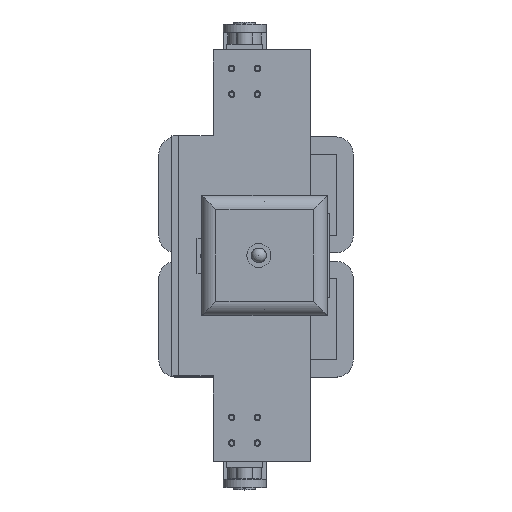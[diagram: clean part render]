
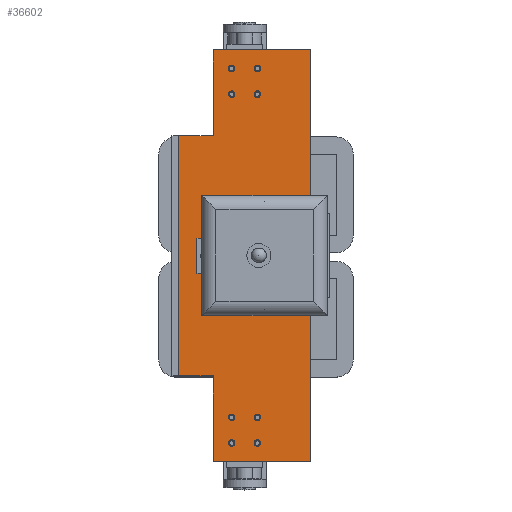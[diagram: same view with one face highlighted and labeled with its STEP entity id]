
A CAD part, top view. The second image highlights one B-rep face of the part: STEP entity #36602.
In plain terms, the highlighted planar face has unit normal (0, 0, 1).
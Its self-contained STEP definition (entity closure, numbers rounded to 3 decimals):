
#34209 = EDGE_CURVE('',#34210,#34210,#34212,.T.);
#34210 = VERTEX_POINT('',#34211);
#34211 = CARTESIAN_POINT('',(-13.6,0.,261.5));
#34212 = CIRCLE('',#34213,0.8);
#34213 = AXIS2_PLACEMENT_3D('',#34214,#34215,#34216);
#34214 = CARTESIAN_POINT('',(-14.4,0.,261.5));
#34215 = DIRECTION('',(0.,0.,1.));
#34216 = DIRECTION('',(1.,0.,0.));
#34235 = VERTEX_POINT('',#34236);
#34236 = CARTESIAN_POINT('',(11.2,-6.45,261.5));
#34244 = VERTEX_POINT('',#34245);
#34245 = CARTESIAN_POINT('',(-12.2,-6.45,261.5));
#34251 = EDGE_CURVE('',#34235,#34244,#34252,.T.);
#34252 = LINE('',#34253,#34254);
#34253 = CARTESIAN_POINT('',(-17.6,-6.45,261.5));
#34254 = VECTOR('',#34255,1.);
#34255 = DIRECTION('',(-1.,0.,0.));
#34268 = VERTEX_POINT('',#34269);
#34269 = CARTESIAN_POINT('',(11.2,6.45,261.5));
#34275 = EDGE_CURVE('',#34235,#34268,#34276,.T.);
#34276 = LINE('',#34277,#34278);
#34277 = CARTESIAN_POINT('',(11.2,-24.225,261.5));
#34278 = VECTOR('',#34279,1.);
#34279 = DIRECTION('',(0.,1.,0.));
#34292 = VERTEX_POINT('',#34293);
#34293 = CARTESIAN_POINT('',(-12.2,6.45,261.5));
#34299 = EDGE_CURVE('',#34244,#34292,#34300,.T.);
#34300 = LINE('',#34301,#34302);
#34301 = CARTESIAN_POINT('',(-12.2,-24.225,261.5));
#34302 = VECTOR('',#34303,1.);
#34303 = DIRECTION('',(0.,1.,0.));
#34316 = EDGE_CURVE('',#34268,#34292,#34317,.T.);
#34317 = LINE('',#34318,#34319);
#34318 = CARTESIAN_POINT('',(-17.6,6.45,261.5));
#34319 = VECTOR('',#34320,1.);
#34320 = DIRECTION('',(-1.,0.,0.));
#34330 = EDGE_CURVE('',#34331,#34331,#34333,.T.);
#34331 = VERTEX_POINT('',#34332);
#34332 = CARTESIAN_POINT('',(14.2,0.,261.5));
#34333 = CIRCLE('',#34334,0.8);
#34334 = AXIS2_PLACEMENT_3D('',#34335,#34336,#34337);
#34335 = CARTESIAN_POINT('',(13.4,0.,261.5));
#34336 = DIRECTION('',(0.,0.,1.));
#34337 = DIRECTION('',(1.,0.,0.));
#34399 = VERTEX_POINT('',#34400);
#34400 = CARTESIAN_POINT('',(-23.,-42.,261.5));
#34406 = EDGE_CURVE('',#34399,#34407,#34409,.T.);
#34407 = VERTEX_POINT('',#34408);
#34408 = CARTESIAN_POINT('',(-11.,-42.,261.5));
#34409 = LINE('',#34410,#34411);
#34410 = CARTESIAN_POINT('',(-23.,-42.,261.5));
#34411 = VECTOR('',#34412,1.);
#34412 = DIRECTION('',(1.,0.,0.));
#34719 = VERTEX_POINT('',#34720);
#34720 = CARTESIAN_POINT('',(-23.,42.,261.5));
#34726 = EDGE_CURVE('',#34719,#34727,#34729,.T.);
#34727 = VERTEX_POINT('',#34728);
#34728 = CARTESIAN_POINT('',(-11.,42.,261.5));
#34729 = LINE('',#34730,#34731);
#34730 = CARTESIAN_POINT('',(-23.,42.,261.5));
#34731 = VECTOR('',#34732,1.);
#34732 = DIRECTION('',(1.,0.,0.));
#34866 = VERTEX_POINT('',#34867);
#34867 = CARTESIAN_POINT('',(-11.,-72.,261.5));
#34875 = EDGE_CURVE('',#34866,#34407,#34876,.T.);
#34876 = LINE('',#34877,#34878);
#34877 = CARTESIAN_POINT('',(-11.,-72.,261.5));
#34878 = VECTOR('',#34879,1.);
#34879 = DIRECTION('',(0.,1.,0.));
#35338 = VERTEX_POINT('',#35339);
#35339 = CARTESIAN_POINT('',(-11.,72.,261.5));
#35345 = EDGE_CURVE('',#34727,#35338,#35346,.T.);
#35346 = LINE('',#35347,#35348);
#35347 = CARTESIAN_POINT('',(-11.,42.,261.5));
#35348 = VECTOR('',#35349,1.);
#35349 = DIRECTION('',(0.,1.,0.));
#35761 = EDGE_CURVE('',#34866,#35762,#35764,.T.);
#35762 = VERTEX_POINT('',#35763);
#35763 = CARTESIAN_POINT('',(23.,-72.,261.5));
#35764 = LINE('',#35765,#35766);
#35765 = CARTESIAN_POINT('',(-11.,-72.,261.5));
#35766 = VECTOR('',#35767,1.);
#35767 = DIRECTION('',(1.,0.,0.));
#35783 = EDGE_CURVE('',#35784,#35784,#35786,.T.);
#35784 = VERTEX_POINT('',#35785);
#35785 = CARTESIAN_POINT('',(-3.35,-65.5,261.5));
#35786 = CIRCLE('',#35787,1.15);
#35787 = AXIS2_PLACEMENT_3D('',#35788,#35789,#35790);
#35788 = CARTESIAN_POINT('',(-4.5,-65.5,261.5));
#35789 = DIRECTION('',(0.,0.,1.));
#35790 = DIRECTION('',(1.,0.,0.));
#35808 = EDGE_CURVE('',#35809,#35809,#35811,.T.);
#35809 = VERTEX_POINT('',#35810);
#35810 = CARTESIAN_POINT('',(5.65,-65.5,261.5));
#35811 = CIRCLE('',#35812,1.15);
#35812 = AXIS2_PLACEMENT_3D('',#35813,#35814,#35815);
#35813 = CARTESIAN_POINT('',(4.5,-65.5,261.5));
#35814 = DIRECTION('',(0.,0.,1.));
#35815 = DIRECTION('',(1.,0.,0.));
#35833 = EDGE_CURVE('',#35834,#35834,#35836,.T.);
#35834 = VERTEX_POINT('',#35835);
#35835 = CARTESIAN_POINT('',(-3.35,-56.5,261.5));
#35836 = CIRCLE('',#35837,1.15);
#35837 = AXIS2_PLACEMENT_3D('',#35838,#35839,#35840);
#35838 = CARTESIAN_POINT('',(-4.5,-56.5,261.5));
#35839 = DIRECTION('',(0.,0.,1.));
#35840 = DIRECTION('',(1.,0.,0.));
#35858 = EDGE_CURVE('',#35859,#35859,#35861,.T.);
#35859 = VERTEX_POINT('',#35860);
#35860 = CARTESIAN_POINT('',(5.65,-56.5,261.5));
#35861 = CIRCLE('',#35862,1.15);
#35862 = AXIS2_PLACEMENT_3D('',#35863,#35864,#35865);
#35863 = CARTESIAN_POINT('',(4.5,-56.5,261.5));
#35864 = DIRECTION('',(0.,0.,1.));
#35865 = DIRECTION('',(1.,0.,0.));
#35897 = EDGE_CURVE('',#35338,#35898,#35900,.T.);
#35898 = VERTEX_POINT('',#35899);
#35899 = CARTESIAN_POINT('',(23.,72.,261.5));
#35900 = LINE('',#35901,#35902);
#35901 = CARTESIAN_POINT('',(-11.,72.,261.5));
#35902 = VECTOR('',#35903,1.);
#35903 = DIRECTION('',(1.,0.,0.));
#35919 = EDGE_CURVE('',#35920,#35920,#35922,.T.);
#35920 = VERTEX_POINT('',#35921);
#35921 = CARTESIAN_POINT('',(-3.35,56.5,261.5));
#35922 = CIRCLE('',#35923,1.15);
#35923 = AXIS2_PLACEMENT_3D('',#35924,#35925,#35926);
#35924 = CARTESIAN_POINT('',(-4.5,56.5,261.5));
#35925 = DIRECTION('',(0.,0.,1.));
#35926 = DIRECTION('',(1.,0.,0.));
#35944 = EDGE_CURVE('',#35945,#35945,#35947,.T.);
#35945 = VERTEX_POINT('',#35946);
#35946 = CARTESIAN_POINT('',(5.65,56.5,261.5));
#35947 = CIRCLE('',#35948,1.15);
#35948 = AXIS2_PLACEMENT_3D('',#35949,#35950,#35951);
#35949 = CARTESIAN_POINT('',(4.5,56.5,261.5));
#35950 = DIRECTION('',(0.,0.,1.));
#35951 = DIRECTION('',(1.,0.,0.));
#35969 = EDGE_CURVE('',#35970,#35970,#35972,.T.);
#35970 = VERTEX_POINT('',#35971);
#35971 = CARTESIAN_POINT('',(-3.35,65.5,261.5));
#35972 = CIRCLE('',#35973,1.15);
#35973 = AXIS2_PLACEMENT_3D('',#35974,#35975,#35976);
#35974 = CARTESIAN_POINT('',(-4.5,65.5,261.5));
#35975 = DIRECTION('',(0.,0.,1.));
#35976 = DIRECTION('',(1.,0.,0.));
#35994 = EDGE_CURVE('',#35995,#35995,#35997,.T.);
#35995 = VERTEX_POINT('',#35996);
#35996 = CARTESIAN_POINT('',(5.65,65.5,261.5));
#35997 = CIRCLE('',#35998,1.15);
#35998 = AXIS2_PLACEMENT_3D('',#35999,#36000,#36001);
#35999 = CARTESIAN_POINT('',(4.5,65.5,261.5));
#36000 = DIRECTION('',(0.,0.,1.));
#36001 = DIRECTION('',(1.,0.,0.));
#36348 = EDGE_CURVE('',#34399,#34719,#36349,.T.);
#36349 = LINE('',#36350,#36351);
#36350 = CARTESIAN_POINT('',(-23.,-42.,261.5));
#36351 = VECTOR('',#36352,1.);
#36352 = DIRECTION('',(0.,1.,0.));
#36602 = ADVANCED_FACE('',(#36603,#36618,#36624,#36627,#36630,#36633,
    #36636,#36639,#36642,#36645,#36648,#36651),#36654,.T.);
#36603 = FACE_BOUND('',#36604,.T.);
#36604 = EDGE_LOOP('',(#36605,#36606,#36607,#36608,#36609,#36615,#36616,
    #36617));
#36605 = ORIENTED_EDGE('',*,*,#36348,.F.);
#36606 = ORIENTED_EDGE('',*,*,#34406,.T.);
#36607 = ORIENTED_EDGE('',*,*,#34875,.F.);
#36608 = ORIENTED_EDGE('',*,*,#35761,.T.);
#36609 = ORIENTED_EDGE('',*,*,#36610,.T.);
#36610 = EDGE_CURVE('',#35762,#35898,#36611,.T.);
#36611 = LINE('',#36612,#36613);
#36612 = CARTESIAN_POINT('',(23.,-72.,261.5));
#36613 = VECTOR('',#36614,1.);
#36614 = DIRECTION('',(0.,1.,0.));
#36615 = ORIENTED_EDGE('',*,*,#35897,.F.);
#36616 = ORIENTED_EDGE('',*,*,#35345,.F.);
#36617 = ORIENTED_EDGE('',*,*,#34726,.F.);
#36618 = FACE_BOUND('',#36619,.T.);
#36619 = EDGE_LOOP('',(#36620,#36621,#36622,#36623));
#36620 = ORIENTED_EDGE('',*,*,#34251,.T.);
#36621 = ORIENTED_EDGE('',*,*,#34299,.T.);
#36622 = ORIENTED_EDGE('',*,*,#34316,.F.);
#36623 = ORIENTED_EDGE('',*,*,#34275,.F.);
#36624 = FACE_BOUND('',#36625,.T.);
#36625 = EDGE_LOOP('',(#36626));
#36626 = ORIENTED_EDGE('',*,*,#35969,.F.);
#36627 = FACE_BOUND('',#36628,.T.);
#36628 = EDGE_LOOP('',(#36629));
#36629 = ORIENTED_EDGE('',*,*,#35994,.F.);
#36630 = FACE_BOUND('',#36631,.T.);
#36631 = EDGE_LOOP('',(#36632));
#36632 = ORIENTED_EDGE('',*,*,#35783,.F.);
#36633 = FACE_BOUND('',#36634,.T.);
#36634 = EDGE_LOOP('',(#36635));
#36635 = ORIENTED_EDGE('',*,*,#35808,.F.);
#36636 = FACE_BOUND('',#36637,.T.);
#36637 = EDGE_LOOP('',(#36638));
#36638 = ORIENTED_EDGE('',*,*,#35919,.F.);
#36639 = FACE_BOUND('',#36640,.T.);
#36640 = EDGE_LOOP('',(#36641));
#36641 = ORIENTED_EDGE('',*,*,#35944,.F.);
#36642 = FACE_BOUND('',#36643,.T.);
#36643 = EDGE_LOOP('',(#36644));
#36644 = ORIENTED_EDGE('',*,*,#35833,.F.);
#36645 = FACE_BOUND('',#36646,.T.);
#36646 = EDGE_LOOP('',(#36647));
#36647 = ORIENTED_EDGE('',*,*,#35858,.F.);
#36648 = FACE_BOUND('',#36649,.T.);
#36649 = EDGE_LOOP('',(#36650));
#36650 = ORIENTED_EDGE('',*,*,#34209,.F.);
#36651 = FACE_BOUND('',#36652,.T.);
#36652 = EDGE_LOOP('',(#36653));
#36653 = ORIENTED_EDGE('',*,*,#34330,.F.);
#36654 = PLANE('',#36655);
#36655 = AXIS2_PLACEMENT_3D('',#36656,#36657,#36658);
#36656 = CARTESIAN_POINT('',(1.895,0.,261.5));
#36657 = DIRECTION('',(0.,0.,1.));
#36658 = DIRECTION('',(1.,0.,0.));
